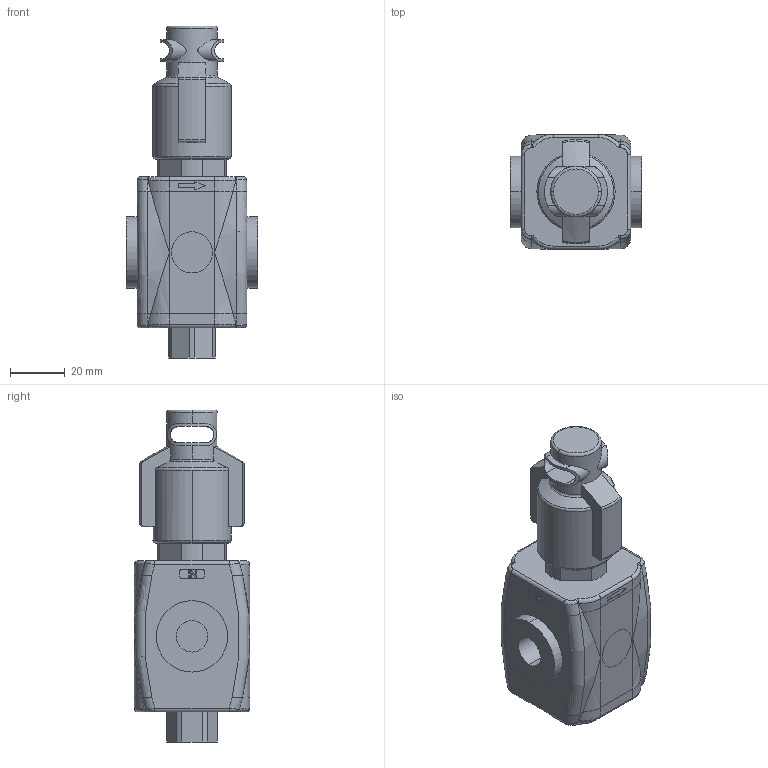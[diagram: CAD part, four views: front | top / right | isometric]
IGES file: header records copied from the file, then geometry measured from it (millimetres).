
Global section: file name: No Iges File Name specified; native system: Autodesk Inventor 2010; preprocessor: AutoDesk Inventor Iges Exporter R2010; author: valotma1; date: 20100823.141749; units: millimetre
Bounding box: 48 x 42 x 121 mm (x, y, z)
Volume: 121509.9 mm3; surface area: 19783.6 mm2
Topology: 1 solids, 1 shells, 244 faces, 612 edges, 390 vertices
Faces by surface type: plane 82, bspline 70, cylinder 53, torus 28, revolution 8, cone 3
